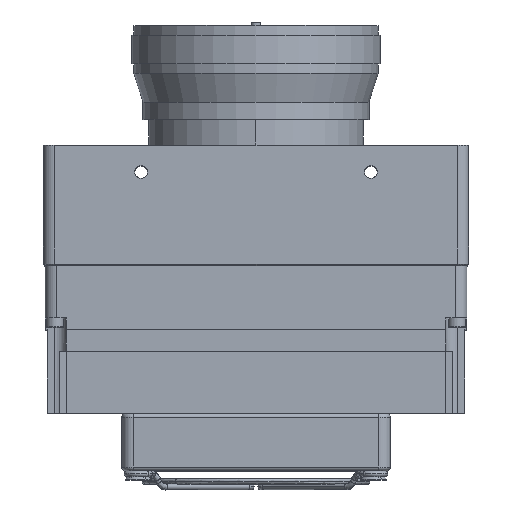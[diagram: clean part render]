
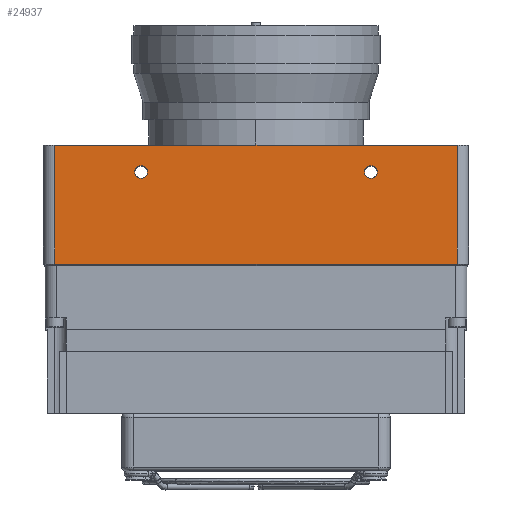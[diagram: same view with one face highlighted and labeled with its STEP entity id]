
A CAD part, top view. The second image highlights one B-rep face of the part: STEP entity #24937.
In plain terms, the highlighted planar face has unit normal (0, 0, 1).
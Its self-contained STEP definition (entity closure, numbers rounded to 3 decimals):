
#1707 = AXIS2_PLACEMENT_3D ( 'NONE', #11377, #28327, #30430 ) ;
#1801 = LINE ( 'NONE', #19249, #23729 ) ;
#1922 = CARTESIAN_POINT ( 'NONE',  ( 20., 39.45, 55.5 ) ) ;
#2207 = EDGE_CURVE ( 'NONE', #21094, #27813, #1801, .T. ) ;
#2835 = VERTEX_POINT ( 'NONE', #29665 ) ;
#3380 = CARTESIAN_POINT ( 'NONE',  ( 20., 41.1, 55.5 ) ) ;
#3769 = PLANE ( 'NONE',  #1707 ) ;
#5678 = EDGE_CURVE ( 'NONE', #6547, #16420, #16675, .T. ) ;
#5724 = CIRCLE ( 'NONE', #26878, 1.65 ) ;
#6210 = FACE_OUTER_BOUND ( 'NONE', #21938, .T. ) ;
#6547 = VERTEX_POINT ( 'NONE', #22506 ) ;
#7067 = CARTESIAN_POINT ( 'NONE',  ( 42.5, 12.92, 55.5 ) ) ;
#7219 = EDGE_CURVE ( 'NONE', #18095, #2835, #17912, .T. ) ;
#7224 = VECTOR ( 'NONE', #30691, 1000. ) ;
#7295 = ORIENTED_EDGE ( 'NONE', *, *, #12327, .T. ) ;
#7365 = VECTOR ( 'NONE', #14347, 1000. ) ;
#8142 = CARTESIAN_POINT ( 'NONE',  ( -40., 42.75, 55.5 ) ) ;
#9438 = AXIS2_PLACEMENT_3D ( 'NONE', #11830, #16871, #16670 ) ;
#9794 = ORIENTED_EDGE ( 'NONE', *, *, #5678, .T. ) ;
#10217 = EDGE_LOOP ( 'NONE', ( #19254, #26914 ) ) ;
#10451 = DIRECTION ( 'NONE',  ( 0., 1., 0. ) ) ;
#11377 = CARTESIAN_POINT ( 'NONE',  ( -68., 12.92, 55.5 ) ) ;
#11830 = CARTESIAN_POINT ( 'NONE',  ( -40., 41.1, 55.5 ) ) ;
#12158 = DIRECTION ( 'NONE',  ( 0., -1., 0. ) ) ;
#12327 = EDGE_CURVE ( 'NONE', #16420, #21094, #15724, .T. ) ;
#12543 = CARTESIAN_POINT ( 'NONE',  ( -62.5, 48.1, 55.5 ) ) ;
#12675 = CARTESIAN_POINT ( 'NONE',  ( -62.5, 12.92, 55.5 ) ) ;
#14082 = EDGE_CURVE ( 'NONE', #22453, #28452, #20854, .T. ) ;
#14347 = DIRECTION ( 'NONE',  ( 0., 1., 0. ) ) ;
#14360 = EDGE_CURVE ( 'NONE', #28452, #22453, #5724, .T. ) ;
#14454 = CIRCLE ( 'NONE', #19909, 1.65 ) ;
#15724 = LINE ( 'NONE', #12675, #18784 ) ;
#16010 = DIRECTION ( 'NONE',  ( 0., 0., 1. ) ) ;
#16420 = VERTEX_POINT ( 'NONE', #12543 ) ;
#16670 = DIRECTION ( 'NONE',  ( 0., 1., 0. ) ) ;
#16675 = LINE ( 'NONE', #30578, #7224 ) ;
#16871 = DIRECTION ( 'NONE',  ( 0., 0., 1. ) ) ;
#17581 = CARTESIAN_POINT ( 'NONE',  ( -62.5, 17.05, 55.5 ) ) ;
#17719 = EDGE_CURVE ( 'NONE', #27813, #6547, #20237, .T. ) ;
#17783 = EDGE_LOOP ( 'NONE', ( #22612, #22646 ) ) ;
#17912 = CIRCLE ( 'NONE', #24266, 1.65 ) ;
#18095 = VERTEX_POINT ( 'NONE', #1922 ) ;
#18784 = VECTOR ( 'NONE', #12158, 1000. ) ;
#19249 = CARTESIAN_POINT ( 'NONE',  ( 45., 17.05, 55.5 ) ) ;
#19254 = ORIENTED_EDGE ( 'NONE', *, *, #25631, .F. ) ;
#19909 = AXIS2_PLACEMENT_3D ( 'NONE', #24552, #22197, #19977 ) ;
#19977 = DIRECTION ( 'NONE',  ( 0., 1., 0. ) ) ;
#20237 = LINE ( 'NONE', #7067, #7365 ) ;
#20583 = FACE_BOUND ( 'NONE', #17783, .T. ) ;
#20854 = CIRCLE ( 'NONE', #9438, 1.65 ) ;
#21094 = VERTEX_POINT ( 'NONE', #17581 ) ;
#21938 = EDGE_LOOP ( 'NONE', ( #7295, #29780, #23843, #9794 ) ) ;
#22197 = DIRECTION ( 'NONE',  ( 0., 0., 1. ) ) ;
#22453 = VERTEX_POINT ( 'NONE', #23894 ) ;
#22506 = CARTESIAN_POINT ( 'NONE',  ( 42.5, 48.1, 55.5 ) ) ;
#22612 = ORIENTED_EDGE ( 'NONE', *, *, #14360, .F. ) ;
#22646 = ORIENTED_EDGE ( 'NONE', *, *, #14082, .F. ) ;
#23257 = CARTESIAN_POINT ( 'NONE',  ( -40., 41.1, 55.5 ) ) ;
#23729 = VECTOR ( 'NONE', #28614, 1000. ) ;
#23843 = ORIENTED_EDGE ( 'NONE', *, *, #17719, .T. ) ;
#23894 = CARTESIAN_POINT ( 'NONE',  ( -40., 39.45, 55.5 ) ) ;
#24266 = AXIS2_PLACEMENT_3D ( 'NONE', #3380, #27625, #10451 ) ;
#24552 = CARTESIAN_POINT ( 'NONE',  ( 20., 41.1, 55.5 ) ) ;
#24937 = ADVANCED_FACE ( 'NONE', ( #25519, #20583, #6210 ), #3769, .F. ) ;
#25519 = FACE_BOUND ( 'NONE', #10217, .T. ) ;
#25572 = DIRECTION ( 'NONE',  ( 0., 1., 0. ) ) ;
#25631 = EDGE_CURVE ( 'NONE', #2835, #18095, #14454, .T. ) ;
#26521 = CARTESIAN_POINT ( 'NONE',  ( 42.5, 17.05, 55.5 ) ) ;
#26878 = AXIS2_PLACEMENT_3D ( 'NONE', #23257, #16010, #25572 ) ;
#26914 = ORIENTED_EDGE ( 'NONE', *, *, #7219, .F. ) ;
#27625 = DIRECTION ( 'NONE',  ( 0., 0., 1. ) ) ;
#27813 = VERTEX_POINT ( 'NONE', #26521 ) ;
#28327 = DIRECTION ( 'NONE',  ( 0., 0., -1. ) ) ;
#28452 = VERTEX_POINT ( 'NONE', #8142 ) ;
#28614 = DIRECTION ( 'NONE',  ( 1., 0., 0. ) ) ;
#29665 = CARTESIAN_POINT ( 'NONE',  ( 20., 42.75, 55.5 ) ) ;
#29780 = ORIENTED_EDGE ( 'NONE', *, *, #2207, .T. ) ;
#30430 = DIRECTION ( 'NONE',  ( 1., 0., 0. ) ) ;
#30578 = CARTESIAN_POINT ( 'NONE',  ( -68., 48.1, 55.5 ) ) ;
#30691 = DIRECTION ( 'NONE',  ( -1., 0., 0. ) ) ;
